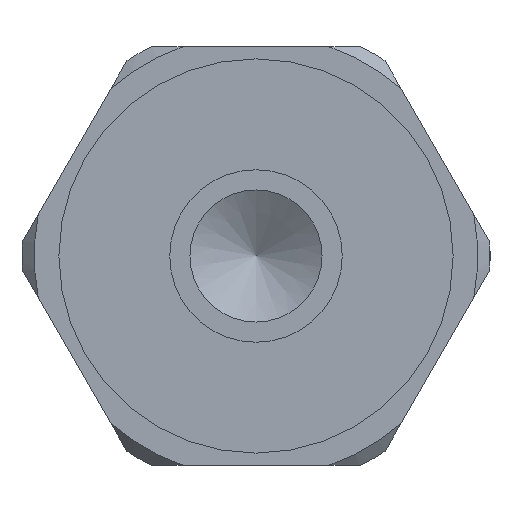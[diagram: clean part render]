
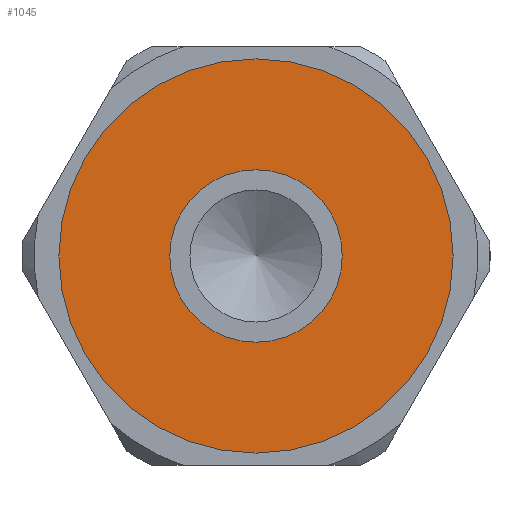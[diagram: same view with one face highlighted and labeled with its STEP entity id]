
A CAD part, left-side view. The second image highlights one B-rep face of the part: STEP entity #1045.
In plain terms, the highlighted planar face has unit normal (-1, 0, 0).
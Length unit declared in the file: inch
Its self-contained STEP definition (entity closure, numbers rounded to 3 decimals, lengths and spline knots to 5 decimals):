
#54=FACE_BOUND('',#169,.T.);
#70=PLANE('',#1165);
#110=FACE_OUTER_BOUND('',#168,.T.);
#168=EDGE_LOOP('',(#818,#819));
#169=EDGE_LOOP('',(#820,#821));
#292=CIRCLE('',#1093,0.1378);
#293=CIRCLE('',#1094,0.1378);
#328=CIRCLE('',#1163,0.31496);
#329=CIRCLE('',#1164,0.31496);
#372=VERTEX_POINT('',#1554);
#373=VERTEX_POINT('',#1555);
#432=VERTEX_POINT('',#1789);
#433=VERTEX_POINT('',#1790);
#474=EDGE_CURVE('',#372,#373,#292,.T.);
#475=EDGE_CURVE('',#373,#372,#293,.T.);
#567=EDGE_CURVE('',#432,#433,#328,.T.);
#568=EDGE_CURVE('',#433,#432,#329,.T.);
#818=ORIENTED_EDGE('',*,*,#567,.T.);
#819=ORIENTED_EDGE('',*,*,#568,.T.);
#820=ORIENTED_EDGE('',*,*,#474,.T.);
#821=ORIENTED_EDGE('',*,*,#475,.T.);
#1045=ADVANCED_FACE('',(#110,#54),#70,.T.);
#1093=AXIS2_PLACEMENT_3D('',#1556,#1238,#1239);
#1094=AXIS2_PLACEMENT_3D('',#1557,#1240,#1241);
#1163=AXIS2_PLACEMENT_3D('',#1791,#1411,#1412);
#1164=AXIS2_PLACEMENT_3D('',#1792,#1413,#1414);
#1165=AXIS2_PLACEMENT_3D('',#1794,#1416,#1417);
#1238=DIRECTION('center_axis',(1.,0.,0.));
#1239=DIRECTION('ref_axis',(0.,0.,1.));
#1240=DIRECTION('center_axis',(1.,0.,0.));
#1241=DIRECTION('ref_axis',(0.,0.,1.));
#1411=DIRECTION('center_axis',(-1.,0.,0.));
#1412=DIRECTION('ref_axis',(0.,0.,1.));
#1413=DIRECTION('center_axis',(-1.,0.,0.));
#1414=DIRECTION('ref_axis',(0.,0.,1.));
#1416=DIRECTION('center_axis',(-1.,0.,0.));
#1417=DIRECTION('ref_axis',(0.,0.,1.));
#1554=CARTESIAN_POINT('',(-2.21862,-0.42833,0.56421));
#1555=CARTESIAN_POINT('',(-2.21862,-0.42833,0.28862));
#1556=CARTESIAN_POINT('Origin',(-2.21862,-0.42833,0.42641));
#1557=CARTESIAN_POINT('Origin',(-2.21862,-0.42833,0.42641));
#1789=CARTESIAN_POINT('',(-2.21862,-0.42833,0.74137));
#1790=CARTESIAN_POINT('',(-2.21862,-0.42833,0.11145));
#1791=CARTESIAN_POINT('Origin',(-2.21862,-0.42833,0.42641));
#1792=CARTESIAN_POINT('Origin',(-2.21862,-0.42833,0.42641));
#1794=CARTESIAN_POINT('Origin',(-2.21862,-0.42833,0.42641));
